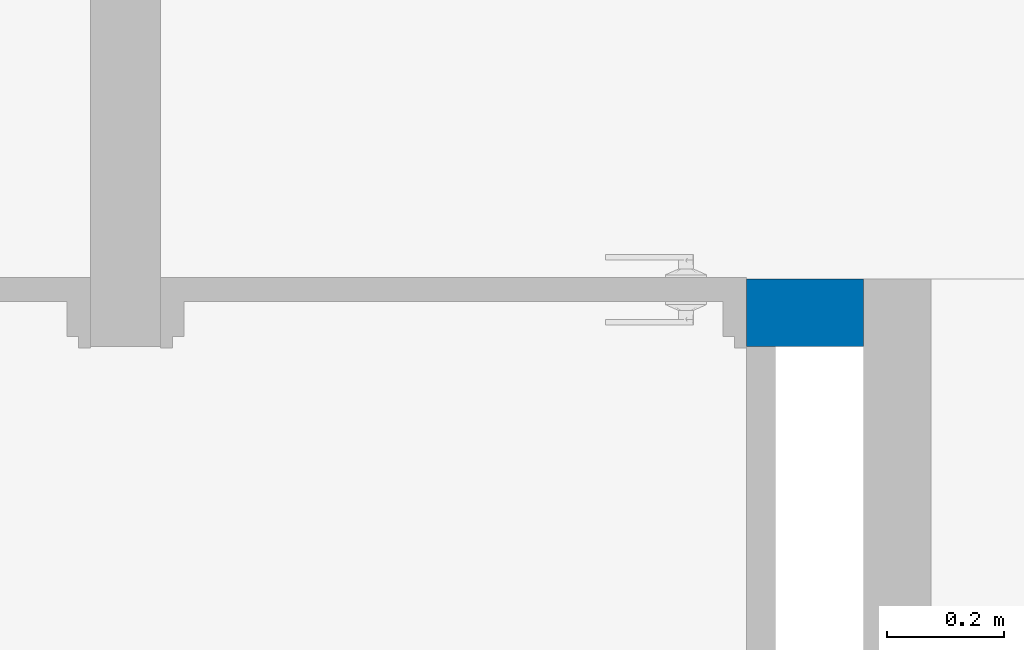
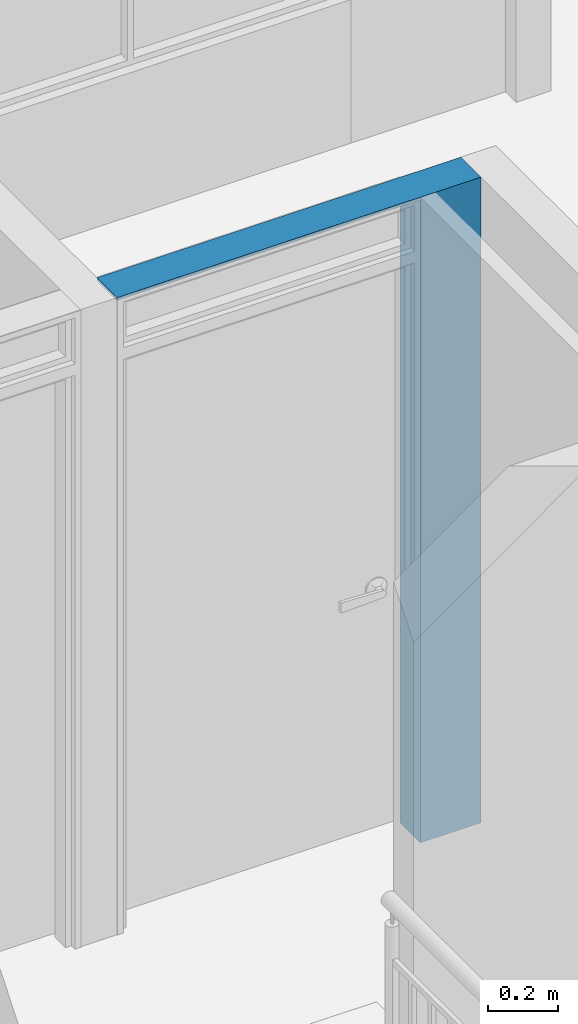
# One storey, part 32 of 47: 1 wall, 1 opening.
"""IFC4 building model written with IfcOpenShell, lengths in metres."""

from ifc_helpers import new_model, entity, si_unit, converted_unit, derived_unit, direction, frame, origin, place, context, subcontext, project, spatial, indexed_curve, outline, extrude, polygons, material, type_object, element, save


model = new_model("IFC4")

# Units and contexts
model_context = context("Model", 3, precision=1e-05, world=origin(), true_north=direction((6.123031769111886e-17, 1.0)))
body_context = subcontext(model_context, "Body", "Model", "MODEL_VIEW")
ifc_project = project(units=[si_unit("LENGTHUNIT", "METRE"), si_unit("AREAUNIT", "SQUARE_METRE"), si_unit("VOLUMEUNIT", "CUBIC_METRE"), converted_unit("PLANEANGLEUNIT", "DEGREE", entity("IfcRatioMeasure", 0.017453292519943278), si_unit("PLANEANGLEUNIT", "RADIAN"), dimensions=[0, 0, 0, 0, 0, 0, 0]), si_unit("MASSUNIT", "GRAM", prefix="KILO"), derived_unit("MASSDENSITYUNIT", [(si_unit("MASSUNIT", "GRAM", prefix="KILO"), 1), (si_unit("LENGTHUNIT", "METRE"), -3)]), derived_unit("IONCONCENTRATIONUNIT", [(si_unit("MASSUNIT", "GRAM", prefix="KILO"), 1), (si_unit("LENGTHUNIT", "METRE"), -3)]), derived_unit("MOMENTOFINERTIAUNIT", [(si_unit("LENGTHUNIT", "METRE"), 4)]), si_unit("TIMEUNIT", "SECOND"), si_unit("FREQUENCYUNIT", "HERTZ"), si_unit("THERMODYNAMICTEMPERATUREUNIT", "DEGREE_CELSIUS"), derived_unit("THERMALTRANSMITTANCEUNIT", [(si_unit("MASSUNIT", "GRAM", prefix="KILO"), 1), (si_unit("THERMODYNAMICTEMPERATUREUNIT", "KELVIN"), -1), (si_unit("TIMEUNIT", "SECOND"), -3)]), derived_unit("THERMALCONDUCTANCEUNIT", [(si_unit("MASSUNIT", "GRAM", prefix="KILO"), 1), (si_unit("THERMODYNAMICTEMPERATUREUNIT", "KELVIN"), -1), (si_unit("TIMEUNIT", "SECOND"), -3), (si_unit("LENGTHUNIT", "METRE"), 1)]), derived_unit("VOLUMETRICFLOWRATEUNIT", [(si_unit("LENGTHUNIT", "METRE"), 3), (si_unit("TIMEUNIT", "SECOND"), -1)]), derived_unit("MASSFLOWRATEUNIT", [(si_unit("MASSUNIT", "GRAM", prefix="KILO"), 1), (si_unit("TIMEUNIT", "SECOND"), -1)]), derived_unit("ROTATIONALFREQUENCYUNIT", [(si_unit("TIMEUNIT", "SECOND"), -1)]), si_unit("ELECTRICCURRENTUNIT", "AMPERE"), si_unit("ELECTRICVOLTAGEUNIT", "VOLT"), si_unit("POWERUNIT", "WATT"), si_unit("FORCEUNIT", "NEWTON", prefix="KILO"), si_unit("ILLUMINANCEUNIT", "LUX"), si_unit("LUMINOUSFLUXUNIT", "LUMEN"), si_unit("LUMINOUSINTENSITYUNIT", "CANDELA"), derived_unit("USERDEFINED", [(si_unit("MASSUNIT", "GRAM", prefix="KILO"), -1), (si_unit("LENGTHUNIT", "METRE"), -2), (si_unit("TIMEUNIT", "SECOND"), 3), (si_unit("LUMINOUSFLUXUNIT", "LUMEN"), 1)]), derived_unit("USERDEFINED", [(si_unit("MASSUNIT", "GRAM", prefix="KILO"), 1), (si_unit("TIMEUNIT", "SECOND"), -3), (si_unit("LENGTHUNIT", "METRE"), 3), (si_unit("ELECTRICCURRENTUNIT", "AMPERE"), -2)]), derived_unit("SOUNDPOWERUNIT", [(si_unit("MASSUNIT", "GRAM", prefix="KILO"), 1), (si_unit("TIMEUNIT", "SECOND"), -3), (si_unit("LENGTHUNIT", "METRE"), 2)]), derived_unit("SOUNDPRESSUREUNIT", [(si_unit("MASSUNIT", "GRAM", prefix="KILO"), 1), (si_unit("LENGTHUNIT", "METRE"), -1), (si_unit("TIMEUNIT", "SECOND"), -2)]), derived_unit("LINEARVELOCITYUNIT", [(si_unit("LENGTHUNIT", "METRE"), 1), (si_unit("TIMEUNIT", "SECOND"), -1)]), si_unit("PRESSUREUNIT", "PASCAL"), derived_unit("USERDEFINED", [(si_unit("MASSUNIT", "GRAM", prefix="KILO"), 1), (si_unit("LENGTHUNIT", "METRE"), -2), (si_unit("TIMEUNIT", "SECOND"), -2)]), derived_unit("LINEARFORCEUNIT", [(si_unit("MASSUNIT", "GRAM", prefix="KILO"), 1), (si_unit("TIMEUNIT", "SECOND"), -2)]), derived_unit("PLANARFORCEUNIT", [(si_unit("MASSUNIT", "GRAM", prefix="KILO"), 1), (si_unit("LENGTHUNIT", "METRE"), -1), (si_unit("TIMEUNIT", "SECOND"), -2)]), derived_unit("SPECIFICHEATCAPACITYUNIT", [(si_unit("THERMODYNAMICTEMPERATUREUNIT", "KELVIN"), -1), (si_unit("LENGTHUNIT", "METRE"), 2), (si_unit("TIMEUNIT", "SECOND"), -2)]), derived_unit("HEATINGVALUEUNIT", [(si_unit("LENGTHUNIT", "METRE"), 2), (si_unit("TIMEUNIT", "SECOND"), -2)]), derived_unit("VAPORPERMEABILITYUNIT", [(si_unit("LENGTHUNIT", "METRE"), -1), (si_unit("TIMEUNIT", "SECOND"), 1)]), derived_unit("DYNAMICVISCOSITYUNIT", [(si_unit("MASSUNIT", "GRAM", prefix="KILO"), 1), (si_unit("TIMEUNIT", "SECOND"), -1), (si_unit("LENGTHUNIT", "METRE"), -1)]), derived_unit("THERMALEXPANSIONCOEFFICIENTUNIT", [(si_unit("THERMODYNAMICTEMPERATUREUNIT", "KELVIN"), -1)]), derived_unit("MODULUSOFELASTICITYUNIT", [(si_unit("MASSUNIT", "GRAM", prefix="KILO"), 1), (si_unit("LENGTHUNIT", "METRE"), -1), (si_unit("TIMEUNIT", "SECOND"), -2)]), derived_unit("ISOTHERMALMOISTURECAPACITYUNIT", [(si_unit("LENGTHUNIT", "METRE"), 3), (si_unit("MASSUNIT", "GRAM", prefix="KILO"), -1)]), derived_unit("MOISTUREDIFFUSIVITYUNIT", [(si_unit("TIMEUNIT", "SECOND"), -1), (si_unit("LENGTHUNIT", "METRE"), 2)])], contexts=[model_context])

# Site, building, storey
site_placement = place(None, origin())
site = spatial("IfcSite", under=ifc_project, at=site_placement, Name="Default", CompositionType="ELEMENT")
building_placement = place(site_placement, origin())
building = spatial("IfcBuilding", under=site, at=building_placement, CompositionType="ELEMENT")
storey_placement = place(building_placement, frame((0.0, 0.0, 11.750000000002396)))
storey = spatial("IfcBuildingStorey", under=building, at=storey_placement, Name="Nivel 6", CompositionType="ELEMENT", Elevation=11.750000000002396)

# Wall, opening
ifc_material = material(Name="LADRILLO CLARO", Category="Materials")
wall_type = type_object("IfcWallType", Name="Basic Wall:B2010 - 0.115m - MI mampostería no estructural - Ladrillo", PredefinedType="STANDARD")
wall_placement = place(storey_placement, frame((10.582499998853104, -3.7675000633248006, 0.0), z_axis=(0.0, 0.0, 1.0), x_axis=(-1.0, 0.0, 0.0)))
wall = element("IfcWall", 1, at=wall_placement, inside=storey, type_object=wall_type, material=ifc_material, Name="Basic Wall:B2010 - 0.115m - MI mampostería no estructural - Ladrillo", ObjectType="Basic Wall:B2010 - 0.115m - MI mampostería no estructural - Ladrillo", PredefinedType="NOTDEFINED", context=body_context, shape_type="Tessellation", body=[
    polygons([(1.1999999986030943, -0.057499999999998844, 2.2499999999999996), (1.4790461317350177e-15, -0.05750000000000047, 2.2499999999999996), (1.4790461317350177e-15, -0.05750000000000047, 0.0), (0.1999999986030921, -0.057499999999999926, 0.0), (0.1999999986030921, -0.057499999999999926, 2.2399999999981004), (1.1999999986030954, -0.057499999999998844, 2.2399999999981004), (1.7438010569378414e-15, 0.057499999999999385, 2.2499999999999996), (0.14999999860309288, 0.057499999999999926, 2.2499999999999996), (0.19999999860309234, 0.057499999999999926, 2.2499999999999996), (1.1999999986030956, 0.05750000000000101, 2.2499999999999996), (1.1999999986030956, 0.05750000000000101, 2.2399999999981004), (0.1999999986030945, 0.057499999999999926, 2.2399999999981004), (0.19999999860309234, 0.057499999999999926, 0.0), (0.14999999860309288, 0.057499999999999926, 0.0), (1.7438010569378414e-15, 0.057499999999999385, 0.0)], [[[1, 2, 3, 4, 5, 6]], [[7, 8, 9, 10, 11, 12, 13, 14, 15]], [[3, 15, 14, 13, 4]], [[10, 1, 6, 11]], [[2, 1, 10, 9, 8, 7]], [[3, 2, 7, 15]], [[12, 5, 4, 13]], [[5, 12, 11, 6]]], closed=True),
])
opening_placement = place(wall_placement, frame((1.1999999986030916, 0.057499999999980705, 0.0)))
element("IfcOpeningElement", 2, at=opening_placement, cuts=wall, Name="C1030 - Puerta batiente - Madera + Metal:C1030 - 1.00 x 2.24 - Puerta batiente - Madera:1", PredefinedType="OPENING", context=body_context, shape_type="SweptSolid", body=[
    extrude(outline(indexed_curve([(0.0, 0.999999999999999), (0.0, -6.869410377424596e-30), (2.239999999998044, -6.869410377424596e-30), (2.2399999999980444, 0.999999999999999), (0.0, 0.999999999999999)], self_intersect=False)), frame((0.0, 0.0, 0.0), z_axis=(0.0, -1.0, 0.0), x_axis=(0.0, 0.0, 1.0)), (0.0, 0.0, 1.0), 0.115),
])

save(model, "model.ifc")
